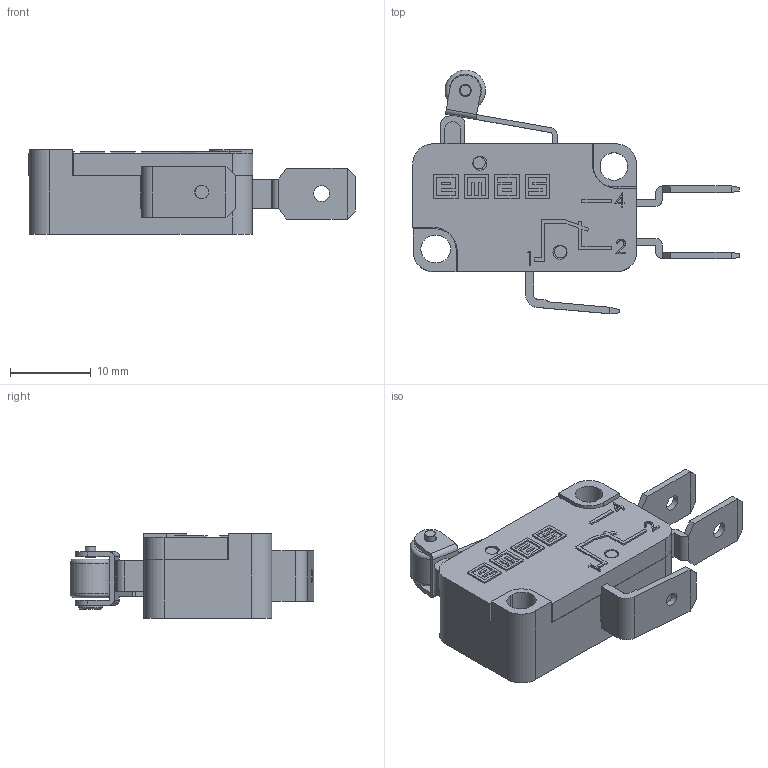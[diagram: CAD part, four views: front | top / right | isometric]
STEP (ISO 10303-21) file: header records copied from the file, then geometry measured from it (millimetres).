
FILE_DESCRIPTION((''),'2; 1');
FILE_NAME('','2026-03-27T16:20:45',(''),(''),'CST STEP Exporter V1.0','Unknown','');
FILE_SCHEMA(('CONFIG_CONTROL_DESIGN'));
Length unit declared in the file: metre
Assembly tree (11 placements, depth 2):
  (unnamed)
    (unnamed)
    (unnamed)
    (unnamed)
    (unnamed)
    (unnamed)
    (unnamed)
    (unnamed)
    (unnamed)
    (unnamed)
    (unnamed)
    (unnamed)
Bounding box: 40.35 x 30.09 x 10.4 mm (x, y, z)
Surface area: 7376.5 mm2 (no closed solid volume)
Topology: 0 solids, 11 shells, 302 faces, 1082 edges, 802 vertices
Faces by surface type: plane 249, cylinder 44, extrusion 6, torus 2, cone 1
Full cylindrical faces by diameter (mm): 1.3 x1, 1.5 x3, 1.7 x1, 1.75 x2, 1.95 x2, 3 x1, 3.4 x1, 5 x1
Entity records: 14133 total; most frequent: CARTESIAN_POINT 2345, DIRECTION 1814, ORIENTED_EDGE 1784, EDGE_CURVE 1063, VECTOR 868, LINE 862, VERTEX_POINT 798, AXIS2_PLACEMENT_3D 473
